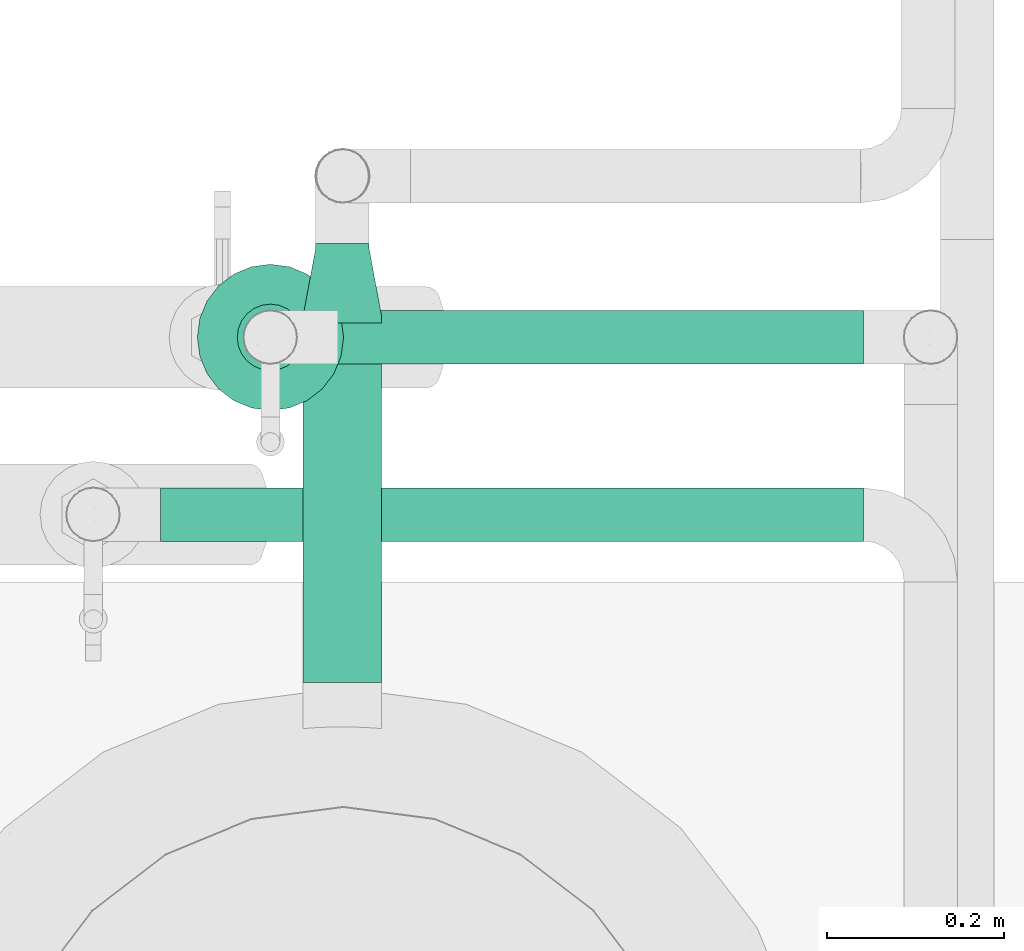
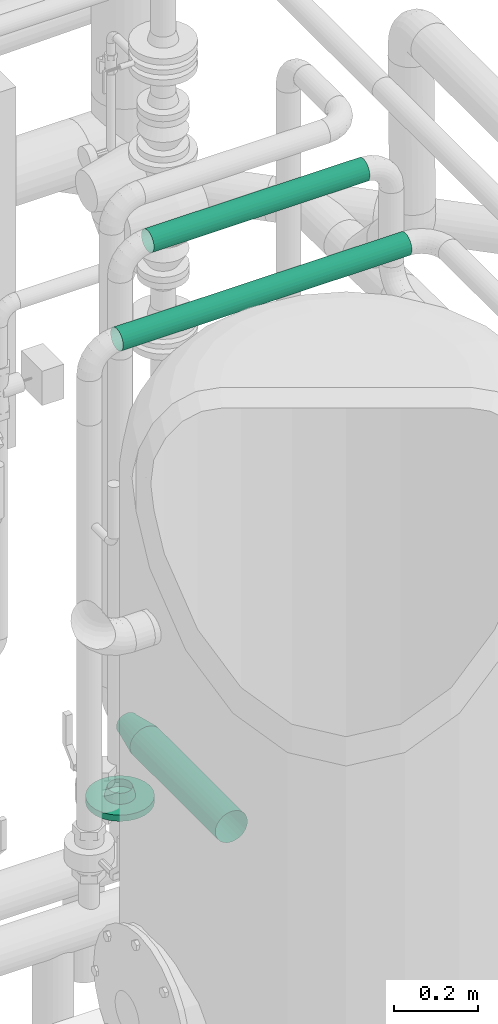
# One storey, part 276 of 374: 3 flow segments, 2 flow fittings.
"""IFC2X3 building model written with IfcOpenShell, lengths in metres."""

from ifc_helpers import new_model, si_unit, direction, origin, place, context, subcontext, project, spatial, open_shell, surface_model, source, transform, mapped, element, save


model = new_model("IFC2X3")

# Units and contexts
model_context = context("Model", 3, precision=1e-05, world=origin(), true_north=direction((-0.4480736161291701, 0.8939966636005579)))
body_context = subcontext(model_context, "Body", "Model", "MODEL_VIEW")
ifc_project = project(units=[si_unit("LENGTHUNIT", "METRE"), si_unit("AREAUNIT", "SQUARE_METRE"), si_unit("VOLUMEUNIT", "CUBIC_METRE"), si_unit("PLANEANGLEUNIT", "RADIAN"), si_unit("THERMODYNAMICTEMPERATUREUNIT", "KELVIN"), si_unit("MASSUNIT", "GRAM", prefix="KILO"), si_unit("TIMEUNIT", "SECOND")], contexts=[model_context])

# Site, building, storey
site_placement = place(None, origin())
site = spatial("IfcSite", under=ifc_project, at=site_placement, Name="Site 1", CompositionType="ELEMENT")
building_placement = place(site_placement, origin())
building = spatial("IfcBuilding", under=site, at=building_placement, Name="Undefined", CompositionType="ELEMENT")
storey_placement = place(building_placement, origin())
storey = spatial("IfcBuildingStorey", under=building, at=storey_placement, Name="Rez de chauss\x8ee", CompositionType="ELEMENT", Elevation=0.0)

# Flow fitting
shared_shape_1 = source(origin(), body_context, "Body", "SurfaceModel", [
    surface_model("IfcFaceBasedSurfaceModel", [(0.0, 0.0, 0.0), (0.007870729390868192, 0.0, -7.105427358e-15), (0.007870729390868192, 0.005490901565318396, -7.105427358e-15), (-8.8817842e-16, 0.005490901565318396, 0.0), (0.015473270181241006, 0.0, -0.00203709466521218), (0.015473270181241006, 0.005490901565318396, -0.00203709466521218), (0.02228952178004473, 0.0, -0.005972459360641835), (0.02228952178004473, 0.005490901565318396, -0.005972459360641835), (0.02785496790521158, 0.0, -0.011537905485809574), (0.02785496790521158, 0.005490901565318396, -0.011537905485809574), (0.03179033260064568, 0.0, -0.01835415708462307), (0.03179033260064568, 0.005490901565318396, -0.01835415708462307), (0.03382742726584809, 0.0, -0.025956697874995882), (0.03382742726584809, 0.005490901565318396, -0.025956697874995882), (0.03382742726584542, 0.0, -0.0338274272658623), (0.03382742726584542, 0.005490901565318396, -0.0338274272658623), (0.03179033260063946, 0.0, -0.04142996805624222), (0.03179033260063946, 0.005490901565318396, -0.04142996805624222), (0.0278549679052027, 0.0, -0.048246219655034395), (0.0278549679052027, 0.005490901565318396, -0.048246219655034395), (0.022289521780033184, 0.0, -0.05381166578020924), (0.022289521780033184, 0.005490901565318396, -0.05381166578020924), (0.015473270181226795, 0.0, -0.057747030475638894), (0.015473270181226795, 0.005490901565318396, -0.057747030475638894), (0.007870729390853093, 0.0, -0.05978412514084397), (0.007870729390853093, 0.005490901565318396, -0.05978412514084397), (0.0, -1.7763568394e-14, -0.05978412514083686), (-1.5099033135e-14, 0.005490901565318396, -0.05978412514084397), (-0.007602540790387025, 0.0, -0.057747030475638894), (-0.007602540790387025, 0.005490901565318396, -0.057747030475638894), (-0.014418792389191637, 0.0, -0.05381166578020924), (-0.014418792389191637, 0.005490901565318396, -0.05381166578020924), (-0.0199842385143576, 0.0, -0.04824621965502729), (-0.0199842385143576, 0.005490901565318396, -0.04824621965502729), (-0.023919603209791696, 0.0, -0.0414299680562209), (-0.023919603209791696, 0.005490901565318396, -0.0414299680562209), (-0.025956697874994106, 0.0, -0.03382742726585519), (-0.025956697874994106, 0.005490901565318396, -0.03382742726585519), (-0.025956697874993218, 0.0, -0.02595669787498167), (-0.025956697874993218, 0.005490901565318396, -0.02595669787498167), (-0.02391960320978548, 0.0, -0.018354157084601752), (-0.02391960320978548, 0.005490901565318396, -0.018354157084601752), (-0.019984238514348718, 0.0, -0.011537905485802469), (-0.019984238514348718, 0.005490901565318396, -0.011537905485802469), (-0.014418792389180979, 0.0, -0.00597245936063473), (-0.014418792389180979, 0.005490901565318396, -0.00597245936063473), (-0.007602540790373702, 0.0, -0.0020370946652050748), (-0.007602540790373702, 0.005490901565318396, -0.0020370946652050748), (-0.040134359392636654, 0.0828503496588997, -0.024090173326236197), (-0.04013435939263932, 0.0828503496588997, -0.035693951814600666), (-0.03713108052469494, 0.0828503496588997, -0.01288178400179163), (-0.031329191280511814, 0.0828503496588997, -0.002832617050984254), (-0.023124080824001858, 0.0828503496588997, 0.005372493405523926), (-0.013074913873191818, 0.0828503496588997, 0.01117438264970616), (-0.0018665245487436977, 0.0828503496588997, 0.014177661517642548), (0.009737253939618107, 0.0828503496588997, 0.014177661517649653), (0.02094564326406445, 0.0828503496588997, 0.01117438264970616), (0.030994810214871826, 0.0828503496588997, 0.005372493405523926), (0.03919992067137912, 0.0828503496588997, -0.0028326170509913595), (0.0450018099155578, 0.0828503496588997, -0.01288178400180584), (0.04800508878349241, 0.0828503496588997, -0.024090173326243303), (0.04800508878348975, 0.0828503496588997, -0.03569395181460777), (0.045001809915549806, 0.0828503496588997, -0.046902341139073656), (0.039199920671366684, 0.0828503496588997, -0.056951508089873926), (0.03099481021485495, 0.0828503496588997, -0.065156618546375), (0.02094564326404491, 0.0828503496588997, -0.07095850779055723), (0.009737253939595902, 0.0828503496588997, -0.07396178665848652), (-0.001866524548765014, 0.0828503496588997, -0.07396178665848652), (-0.013074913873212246, 0.0828503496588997, -0.07095850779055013), (-0.023124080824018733, 0.0828503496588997, -0.0651566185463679), (-0.03132919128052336, 0.0828503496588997, -0.05695150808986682), (-0.03713108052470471, 0.0828503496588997, -0.04690234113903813), (0.009737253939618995, 0.08999999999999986, 0.014177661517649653), (-0.0018665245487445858, 0.08999999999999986, 0.014177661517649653), (0.020945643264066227, 0.08999999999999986, 0.01117438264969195), (0.030994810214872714, 0.08999999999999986, 0.0053724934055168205), (0.03919992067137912, 0.08999999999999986, -0.0028326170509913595), (0.0450018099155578, 0.08999999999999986, -0.01288178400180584), (0.0480050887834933, 0.08999999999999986, -0.024090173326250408), (0.048005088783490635, 0.08999999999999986, -0.03569395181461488), (0.04500180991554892, 0.08999999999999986, -0.04690234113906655), (0.039199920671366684, 0.08999999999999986, -0.056951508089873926), (0.030994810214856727, 0.08999999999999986, -0.0651566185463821), (0.02094564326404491, 0.08999999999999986, -0.07095850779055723), (0.00973725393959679, 0.08999999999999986, -0.07396178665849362), (-0.001866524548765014, 0.08999999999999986, -0.07396178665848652), (-0.013074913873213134, 0.08999999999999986, -0.07095850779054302), (-0.02312408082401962, 0.08999999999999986, -0.06515661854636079), (-0.03132919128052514, 0.08999999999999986, -0.05695150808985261), (-0.03713108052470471, 0.08999999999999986, -0.04690234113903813), (-0.040134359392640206, 0.08999999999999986, -0.03569395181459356), (-0.04013435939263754, 0.08999999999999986, -0.024090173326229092), (-0.037131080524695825, 0.08999999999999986, -0.012881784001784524), (-0.0313291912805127, 0.08999999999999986, -0.0028326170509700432), (-0.023124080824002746, 0.08999999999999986, 0.005372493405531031), (-0.013074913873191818, 0.08999999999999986, 0.01117438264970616)], [open_shell([[[0, 1, 2, 3]], [[1, 4, 5, 2]], [[4, 6, 7, 5]], [[6, 8, 9, 7]], [[8, 10, 11, 9]], [[10, 12, 13, 11]], [[12, 14, 15, 13]], [[14, 16, 17, 15]], [[16, 18, 19, 17]], [[18, 20, 21, 19]], [[20, 22, 23, 21]], [[22, 24, 25, 23]], [[24, 26, 27, 25]], [[26, 28, 29, 27]], [[28, 30, 31, 29]], [[30, 32, 33, 31]], [[32, 34, 35, 33]], [[34, 36, 37, 35]], [[36, 38, 39, 37]], [[38, 40, 41, 39]], [[40, 42, 43, 41]], [[42, 44, 45, 43]], [[44, 46, 47, 45]], [[46, 0, 3, 47]], [[37, 39, 48, 49]], [[39, 41, 50, 48]], [[41, 43, 51, 50]], [[43, 45, 52, 51]], [[45, 47, 53, 52]], [[47, 3, 54, 53]], [[3, 2, 55, 54]], [[2, 5, 56, 55]], [[5, 7, 57, 56]], [[7, 9, 58, 57]], [[9, 11, 59, 58]], [[11, 13, 60, 59]], [[13, 15, 61, 60]], [[15, 17, 62, 61]], [[17, 19, 63, 62]], [[19, 21, 64, 63]], [[21, 23, 65, 64]], [[23, 25, 66, 65]], [[25, 27, 67, 66]], [[27, 29, 68, 67]], [[29, 31, 69, 68]], [[31, 33, 70, 69]], [[33, 35, 71, 70]], [[35, 37, 49, 71]], [[54, 55, 72, 73]], [[55, 56, 74, 72]], [[56, 57, 75, 74]], [[57, 58, 76, 75]], [[58, 59, 77, 76]], [[59, 60, 78, 77]], [[60, 61, 79, 78]], [[61, 62, 80, 79]], [[62, 63, 81, 80]], [[63, 64, 82, 81]], [[64, 65, 83, 82]], [[65, 66, 84, 83]], [[66, 67, 85, 84]], [[67, 68, 86, 85]], [[68, 69, 87, 86]], [[69, 70, 88, 87]], [[70, 71, 89, 88]], [[71, 49, 90, 89]], [[49, 48, 91, 90]], [[48, 50, 92, 91]], [[50, 51, 93, 92]], [[51, 52, 94, 93]], [[52, 53, 95, 94]], [[53, 54, 73, 95]]])]),
])
flow_fitting_1_placement = place(storey_placement, origin())
element("IfcFlowFitting", 1, at=flow_fitting_1_placement, inside=storey, Name="Réduction", ObjectType="Réduction", context=body_context, shape_type="MappedRepresentation", body=[
    mapped(shared_shape_1, transform((54.3085815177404, 11.024062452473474, 0.5921084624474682), x_axis=(0.12993335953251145, 0.0, -0.9915227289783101), y_axis=(0.0, -1.0, 0.0), z_axis=(-0.9915227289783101, 0.0, -0.12993335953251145))),
])

# Flow segments
shared_shape_2 = source(origin(), body_context, "Body", "SurfaceModel", [
    surface_model("IfcFaceBasedSurfaceModel", [(0.0, 0.011603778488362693, 2.22044605e-16), (0.0, 0.0, 0.0), (0.4056826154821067, -8.8817842e-16, 0.0), (0.4056826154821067, 0.011603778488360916, 0.0), (0.0, -0.01120838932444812, -0.003003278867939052), (0.4056826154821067, -0.011208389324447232, -0.003003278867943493), (0.0, -0.021257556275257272, -0.008805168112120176), (0.4056826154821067, -0.021257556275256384, -0.008805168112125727), (0.0, -0.029462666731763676, -0.017010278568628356), (0.4056826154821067, -0.029462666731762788, -0.017010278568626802), (0.0, -0.035264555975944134, -0.02705944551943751), (0.4056826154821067, -0.035264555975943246, -0.027059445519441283), (0.0, -0.03826783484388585, -0.038267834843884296), (0.4056826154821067, -0.0382678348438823, -0.038267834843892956), (0.0, -0.038267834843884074, -0.04987161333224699), (0.4056826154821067, -0.03826783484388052, -0.049871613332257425), (0.0, -0.03526455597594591, -0.06108000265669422), (0.4056826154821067, -0.03526455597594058, -0.06108000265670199), (0.0, -0.029462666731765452, -0.07112916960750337), (0.4056826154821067, -0.02946266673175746, -0.07112916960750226), (0.0, -0.021257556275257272, -0.07933428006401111), (0.4056826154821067, -0.02125755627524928, -0.07933428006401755), (0.0, -0.011208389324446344, -0.08513616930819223), (0.4056826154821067, -0.011208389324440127, -0.08513616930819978), (0.0, 0.0, -0.08813944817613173), (0.4056826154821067, 7.105427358e-15, -0.08813944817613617), (0.0, 0.011603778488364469, -0.08813944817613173), (0.4056826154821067, 0.011603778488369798, -0.08813944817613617), (0.0, 0.022812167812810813, -0.08513616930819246), (0.4056826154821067, 0.022812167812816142, -0.08513616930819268), (0.0, 0.03286133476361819, -0.07933428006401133), (0.4056826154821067, 0.032861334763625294, -0.07933428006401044), (0.0, 0.04106644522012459, -0.07112916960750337), (0.4056826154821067, 0.041066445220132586, -0.07112916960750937), (0.0, 0.0468683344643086, -0.06108000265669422), (0.4056826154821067, 0.046868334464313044, -0.06108000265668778), (0.0, 0.04987161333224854, -0.04987161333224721), (0.4056826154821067, 0.04987161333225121, -0.049871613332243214), (0.0, 0.04987161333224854, -0.03826783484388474), (0.4056826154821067, 0.04987161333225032, -0.038267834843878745), (0.0, 0.04686833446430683, -0.02705944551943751), (0.4056826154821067, 0.04686833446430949, -0.027059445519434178), (0.0, 0.04106644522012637, -0.017010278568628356), (0.4056826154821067, 0.04106644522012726, -0.017010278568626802), (0.0, 0.032861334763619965, -0.00880516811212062), (0.4056826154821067, 0.03286133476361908, -0.008805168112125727), (0.0, 0.022812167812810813, -0.003003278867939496), (0.4056826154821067, 0.022812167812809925, -0.0030032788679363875)], [open_shell([[[0, 1, 2, 3]], [[1, 4, 5, 2]], [[4, 6, 7, 5]], [[6, 8, 9, 7]], [[8, 10, 11, 9]], [[10, 12, 13, 11]], [[12, 14, 15, 13]], [[14, 16, 17, 15]], [[16, 18, 19, 17]], [[18, 20, 21, 19]], [[20, 22, 23, 21]], [[22, 24, 25, 23]], [[24, 26, 27, 25]], [[26, 28, 29, 27]], [[28, 30, 31, 29]], [[30, 32, 33, 31]], [[32, 34, 35, 33]], [[34, 36, 37, 35]], [[36, 38, 39, 37]], [[38, 40, 41, 39]], [[40, 42, 43, 41]], [[42, 44, 45, 43]], [[44, 46, 47, 45]], [[46, 0, 3, 47]]])]),
])
flow_segment_1_placement = place(storey_placement, origin())
element("IfcFlowSegment", 2, at=flow_segment_1_placement, inside=storey, Name="Tube acier d'après DIN 2448", ObjectType="Tube acier d'après DIN 2448", context=body_context, shape_type="MappedRepresentation", body=[
    mapped(shared_shape_2, transform((54.29578923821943, 10.934062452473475, 0.5806116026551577), x_axis=(0.0, -1.0, 0.0), y_axis=(-0.12993335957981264, 0.0, 0.9915227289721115), z_axis=(-0.9915227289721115, 0.0, -0.12993335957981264))),
])
shared_shape_3 = source(origin(), body_context, "Body", "SurfaceModel", [
    surface_model("IfcFaceBasedSurfaceModel", [(0.0, 0.007870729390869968, 7.105427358e-15), (0.0, 0.0, 0.0), (0.7932685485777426, 0.0, 0.0), (0.7932685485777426, 0.007870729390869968, 0.0), (0.0, -0.00760254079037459, -0.0020370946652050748), (0.7932685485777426, -0.007602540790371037, -0.0020370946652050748), (0.0, -0.01441879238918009, -0.00597245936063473), (0.7932685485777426, -0.014418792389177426, -0.005972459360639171), (0.0, -0.019984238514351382, -0.011537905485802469), (0.7932685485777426, -0.01998423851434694, -0.01153790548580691), (0.0, -0.023919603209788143, -0.018354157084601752), (0.7932685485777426, -0.02391960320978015, -0.01835415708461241), (0.0, -0.025956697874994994, -0.025956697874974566), (0.7932685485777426, -0.025956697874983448, -0.025956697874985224), (0.0, -0.025956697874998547, -0.03382742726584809), (0.7932685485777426, -0.025956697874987, -0.033827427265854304), (0.0, -0.02391960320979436, -0.041429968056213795), (0.7932685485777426, -0.023919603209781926, -0.04142996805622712), (0.0, -0.019984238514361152, -0.04824621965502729), (0.7932685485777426, -0.01998423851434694, -0.04824621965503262), (0.0, -0.01441879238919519, -0.05381166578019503), (0.7932685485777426, -0.014418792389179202, -0.0538116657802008), (0.0, -0.007602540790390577, -0.05774703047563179), (0.7932685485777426, -0.00760254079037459, -0.05774703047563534), (0.0, -1.7763568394e-14, -0.05978412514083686), (0.7932685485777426, -1.776356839e-15, -0.059784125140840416), (0.0, 0.007870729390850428, -0.05978412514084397), (0.7932685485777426, 0.007870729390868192, -0.05978412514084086), (0.0, 0.015473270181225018, -0.057747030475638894), (0.7932685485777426, 0.015473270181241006, -0.05774703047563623), (0.0, 0.022289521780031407, -0.05381166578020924), (0.7932685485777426, 0.022289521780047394, -0.05381166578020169), (0.0, 0.027854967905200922, -0.048246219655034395), (0.7932685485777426, 0.02785496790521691, -0.048246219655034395), (0.0, 0.031790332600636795, -0.04142996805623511), (0.7932685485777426, 0.03179033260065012, -0.04142996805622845), (0.0, 0.033827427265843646, -0.0338274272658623), (0.7932685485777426, 0.03382742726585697, -0.033827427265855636), (0.0, 0.0338274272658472, -0.025956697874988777), (0.7932685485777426, 0.03382742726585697, -0.025956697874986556), (0.0, 0.0317903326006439, -0.01835415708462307), (0.7932685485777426, 0.031790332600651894, -0.018354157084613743), (0.0, 0.02785496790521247, -0.01153790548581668), (0.7932685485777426, 0.02785496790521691, -0.011537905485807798), (0.0, 0.022289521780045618, -0.005972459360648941), (0.7932685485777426, 0.02228952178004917, -0.005972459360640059), (0.0, 0.015473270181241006, -0.0020370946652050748), (0.7932685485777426, 0.015473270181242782, -0.0020370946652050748)], [open_shell([[[0, 1, 2, 3]], [[1, 4, 5, 2]], [[4, 6, 7, 5]], [[6, 8, 9, 7]], [[8, 10, 11, 9]], [[10, 12, 13, 11]], [[12, 14, 15, 13]], [[14, 16, 17, 15]], [[16, 18, 19, 17]], [[18, 20, 21, 19]], [[20, 22, 23, 21]], [[22, 24, 25, 23]], [[24, 26, 27, 25]], [[26, 28, 29, 27]], [[28, 30, 31, 29]], [[30, 32, 33, 31]], [[32, 34, 35, 33]], [[34, 36, 37, 35]], [[36, 38, 39, 37]], [[38, 40, 41, 39]], [[40, 42, 43, 41]], [[42, 44, 45, 43]], [[44, 46, 47, 45]], [[46, 0, 3, 47]]])]),
])
flow_segment_2_placement = place(storey_placement, origin())
element("IfcFlowSegment", 3, at=flow_segment_2_placement, inside=storey, Name="Tube acier d'après DIN 2448", ObjectType="Tube acier d'après DIN 2448", context=body_context, shape_type="MappedRepresentation", body=[
    mapped(shared_shape_3, transform((54.926830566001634, 10.725840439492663, 1.9943812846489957), x_axis=(-1.0, 0.0, 0.0), y_axis=(7.266545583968e-12, -0.9914448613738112, 0.13052619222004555), z_axis=(0.0, 0.13052619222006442, 0.9914448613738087))),
])
shared_shape_4 = source(origin(), body_context, "Body", "SurfaceModel", [
    surface_model("IfcFaceBasedSurfaceModel", [(0.0, 0.007870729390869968, 7.105427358e-15), (0.0, 0.0, 0.0), (0.5932685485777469, -4.4408921e-16, 0.0), (0.5932685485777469, 0.007870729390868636, -1.776356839e-15), (0.0, -0.00760254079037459, -0.0020370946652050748), (0.5932685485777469, -0.007602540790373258, -0.0020370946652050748), (0.0, -0.01441879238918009, -0.00597245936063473), (0.5932685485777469, -0.01441879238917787, -0.005972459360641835), (0.0, -0.019984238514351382, -0.011537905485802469), (0.5932685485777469, -0.019984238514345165, -0.01153790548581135), (0.0, -0.023919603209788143, -0.018354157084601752), (0.5932685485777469, -0.023919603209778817, -0.01835415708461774), (0.0, -0.025956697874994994, -0.025956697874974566), (0.5932685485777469, -0.025956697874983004, -0.025956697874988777), (0.0, -0.025956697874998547, -0.03382742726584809), (0.5932685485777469, -0.025956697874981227, -0.033827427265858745), (0.0, -0.02391960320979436, -0.041429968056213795), (0.5932685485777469, -0.023919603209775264, -0.041429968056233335), (0.0, -0.019984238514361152, -0.04824621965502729), (0.5932685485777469, -0.019984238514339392, -0.04824621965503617), (0.0, -0.01441879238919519, -0.05381166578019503), (0.5932685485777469, -0.014418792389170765, -0.05381166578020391), (0.0, -0.007602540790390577, -0.05774703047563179), (0.5932685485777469, -0.00760254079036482, -0.05774703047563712), (0.0, -1.7763568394e-14, -0.05978412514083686), (0.5932685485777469, 7.993605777e-15, -0.05978412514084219), (0.0, 0.007870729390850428, -0.05978412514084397), (0.5932685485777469, 0.007870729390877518, -0.059784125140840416), (0.0, 0.015473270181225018, -0.057747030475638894), (0.5932685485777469, 0.015473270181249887, -0.057747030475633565), (0.0, 0.022289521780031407, -0.05381166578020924), (0.5932685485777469, 0.022289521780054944, -0.05381166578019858), (0.0, 0.027854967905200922, -0.048246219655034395), (0.5932685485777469, 0.027854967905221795, -0.04824621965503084), (0.0, 0.031790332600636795, -0.04142996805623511), (0.5932685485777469, 0.031790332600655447, -0.04142996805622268), (0.0, 0.033827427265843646, -0.0338274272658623), (0.5932685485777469, 0.03382742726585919, -0.03382742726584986), (0.0, 0.0338274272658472, -0.025956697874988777), (0.5932685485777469, 0.0338274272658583, -0.02595669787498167), (0.0, 0.0317903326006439, -0.01835415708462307), (0.5932685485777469, 0.03179033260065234, -0.018354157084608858), (0.0, 0.02785496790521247, -0.01153790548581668), (0.5932685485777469, 0.027854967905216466, -0.011537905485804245), (0.0, 0.022289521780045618, -0.005972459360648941), (0.5932685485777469, 0.022289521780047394, -0.005972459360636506), (0.0, 0.015473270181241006, -0.0020370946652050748), (0.5932685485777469, 0.015473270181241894, -0.0020370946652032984)], [open_shell([[[0, 1, 2, 3]], [[1, 4, 5, 2]], [[4, 6, 7, 5]], [[6, 8, 9, 7]], [[8, 10, 11, 9]], [[10, 12, 13, 11]], [[12, 14, 15, 13]], [[14, 16, 17, 15]], [[16, 18, 19, 17]], [[18, 20, 21, 19]], [[20, 22, 23, 21]], [[22, 24, 25, 23]], [[24, 26, 27, 25]], [[26, 28, 29, 27]], [[28, 30, 31, 29]], [[30, 32, 33, 31]], [[32, 34, 35, 33]], [[34, 36, 37, 35]], [[36, 38, 39, 37]], [[38, 40, 41, 39]], [[40, 42, 43, 41]], [[42, 44, 45, 43]], [[44, 46, 47, 45]], [[46, 0, 3, 47]]])]),
])
flow_segment_3_placement = place(storey_placement, origin())
element("IfcFlowSegment", 4, at=flow_segment_3_placement, inside=storey, Name="Tube acier d'après DIN 2448", ObjectType="Tube acier d'après DIN 2448", context=body_context, shape_type="MappedRepresentation", body=[
    mapped(shared_shape_4, transform((54.926830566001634, 10.888914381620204, 2.067445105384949), x_axis=(-1.0, 0.0, 0.0), y_axis=(9.56658874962e-13, -0.13052619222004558, -0.9914448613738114), z_axis=(7.266545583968e-12, -0.9914448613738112, 0.13052619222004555))),
])

# Flow fitting
shared_shape_5 = source(origin(), body_context, "Body", "SurfaceModel", [
    surface_model("IfcFaceBasedSurfaceModel", [(-0.00026984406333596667, 0.007866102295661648, 0.0), (0.0, 0.0, 0.0), (0.027982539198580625, 0.0, 0.0), (0.02764691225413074, 0.009783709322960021, 0.0), (-0.0002698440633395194, -0.007616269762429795, -0.0019667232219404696), (0.027646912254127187, -0.009472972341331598, -0.0024461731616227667), (-0.0010609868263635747, -0.014463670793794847, -0.005766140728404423), (0.0266629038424, -0.017989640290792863, -0.007171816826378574), (-0.002319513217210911, -0.02007556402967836, -0.011139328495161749), (0.025097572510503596, -0.024969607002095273, -0.013854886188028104), (-0.003959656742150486, -0.02406950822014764, -0.01772011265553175), (0.02305759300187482, -0.02993719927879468, -0.022039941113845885), (-0.005869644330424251, -0.02617332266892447, -0.025060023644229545), (0.020681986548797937, -0.03255388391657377, -0.03116918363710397), (-0.007919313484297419, -0.02624363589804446, -0.03265885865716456), (0.01813264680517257, -0.03264133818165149, -0.040620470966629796), (-0.009968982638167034, -0.02427565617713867, -0.03999876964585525), (0.015583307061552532, -0.030193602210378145, -0.049749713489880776), (-0.011878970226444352, -0.020403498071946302, -0.046579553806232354), (0.013207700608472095, -0.02537748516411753, -0.05793476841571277), (-0.01351911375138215, -0.01489104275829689, -0.05195274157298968), (0.01116772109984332, -0.018521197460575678, -0.0646178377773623), (-0.014777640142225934, -0.008113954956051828, -0.05575215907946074), (0.009602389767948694, -0.010091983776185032, -0.069343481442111), (-0.015568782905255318, -0.0005340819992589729, -0.05771888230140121), (0.008618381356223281, -0.0006642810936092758, -0.07178965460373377), (-0.015838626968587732, 0.007332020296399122, -0.057718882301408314), (0.00828275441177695, 0.009119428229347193, -0.07178965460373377), (-0.015568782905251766, 0.014948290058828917, -0.055752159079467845), (0.008618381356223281, 0.018592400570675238, -0.06934348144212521), (-0.014777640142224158, 0.02179569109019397, -0.05195274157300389), (0.009602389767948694, 0.027109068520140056, -0.06461783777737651), (-0.013519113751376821, 0.027407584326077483, -0.04657955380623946), (0.011167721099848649, 0.03408903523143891, -0.057934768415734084), (-0.011878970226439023, 0.03140152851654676, -0.039998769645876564), (0.0132077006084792, 0.03905662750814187, -0.0497497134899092), (-0.009968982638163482, 0.03350534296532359, -0.03265885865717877), (0.015583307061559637, 0.04167331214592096, -0.0406204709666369), (-0.00791931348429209, 0.03357565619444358, -0.025060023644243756), (0.01813264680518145, 0.041760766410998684, -0.031169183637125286), (-0.005869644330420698, 0.031607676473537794, -0.01772011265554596), (0.020681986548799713, 0.039313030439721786, -0.02203994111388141), (-0.003959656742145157, 0.027735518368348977, -0.01113932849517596), (0.023057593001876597, 0.03449691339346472, -0.013854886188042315), (-0.002319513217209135, 0.022223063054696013, -0.005766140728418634), (0.02509757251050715, 0.027640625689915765, -0.007171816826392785), (-0.0010609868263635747, 0.01544597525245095, -0.001966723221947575), (0.026662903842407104, 0.019211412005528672, -0.0024461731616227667), (0.012524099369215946, 0.08620962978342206, -0.04629124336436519), (0.018132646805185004, 0.08640202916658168, -0.025498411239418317), (0.0355006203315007, 0.08699783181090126, -0.030188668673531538), (0.02989207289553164, 0.08680543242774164, -0.05098150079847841), (0.023741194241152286, 0.0810170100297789, -0.005414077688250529), (0.04110916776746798, 0.08161281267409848, -0.01010433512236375), (0.028967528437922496, 0.07042155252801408, 0.01259304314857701), (0.04633550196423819, 0.07101735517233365, 0.00790278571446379), (0.033455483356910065, 0.055337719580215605, 0.027295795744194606), (0.05082345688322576, 0.05593352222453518, 0.022605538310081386), (0.036899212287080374, 0.03679344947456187, 0.037692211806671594), (0.05426718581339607, 0.037389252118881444, 0.03300195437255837), (0.039064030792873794, 0.016052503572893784, 0.043073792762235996), (0.05643200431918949, 0.01664830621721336, 0.038383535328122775), (0.039802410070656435, -0.005471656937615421, 0.043073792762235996), (0.05717038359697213, -0.004875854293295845, 0.038383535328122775), (0.03906403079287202, -0.02631219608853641, 0.03769221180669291), (0.05643200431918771, -0.025716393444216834, 0.03300195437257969), (0.03689921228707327, -0.045048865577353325, 0.027295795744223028), (0.05426718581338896, -0.04445306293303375, 0.022605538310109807), (0.03345548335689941, -0.06040479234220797, 0.012593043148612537), (0.0508234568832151, -0.059808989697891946, 0.007902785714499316), (0.028967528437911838, -0.07133349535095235, -0.005414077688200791), (0.04633550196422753, -0.07073769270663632, -0.010104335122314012), (0.023741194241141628, -0.07709020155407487, -0.025498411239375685), (0.04110916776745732, -0.07649439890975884, -0.030188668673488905), (0.018132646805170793, -0.07728260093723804, -0.04629124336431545), (0.03550062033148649, -0.07668679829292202, -0.05098150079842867), (0.012524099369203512, -0.07189758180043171, -0.06637557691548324), (0.029892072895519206, -0.07130177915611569, -0.07106583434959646), (0.007297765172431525, -0.06130212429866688, -0.08438269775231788), (0.02466573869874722, -0.06070632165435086, -0.0890729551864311), (0.0028098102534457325, -0.046218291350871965, -0.09908545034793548), (0.020177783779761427, -0.04562248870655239, -0.1037757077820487), (-0.0006339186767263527, -0.027674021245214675, -0.10948186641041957), (0.01673405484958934, -0.0270782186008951, -0.11417212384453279), (-0.002798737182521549, -0.0069330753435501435, -0.11486344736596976), (0.014569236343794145, -0.006337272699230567, -0.11955370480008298), (-0.003537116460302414, 0.014591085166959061, -0.11486344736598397), (0.01383085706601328, 0.015186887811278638, -0.1195537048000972), (-0.00279873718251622, 0.03543162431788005, -0.10948186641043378), (0.014569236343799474, 0.03602742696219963, -0.114172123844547), (-0.0006339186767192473, 0.054168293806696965, -0.0990854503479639), (0.016734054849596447, 0.05476409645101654, -0.10377570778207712), (0.0028098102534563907, 0.06952422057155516, -0.0843826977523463), (0.020177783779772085, 0.07012002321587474, -0.08907295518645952), (0.00729776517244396, 0.08045292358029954, -0.06637557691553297), (0.024665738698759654, 0.08104872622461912, -0.0710658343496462), (0.0181326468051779, 0.0045597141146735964, -0.03589482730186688)], [open_shell([[[0, 1, 2, 3]], [[1, 4, 5, 2]], [[4, 6, 7, 5]], [[6, 8, 9, 7]], [[8, 10, 11, 9]], [[10, 12, 13, 11]], [[12, 14, 15, 13]], [[14, 16, 17, 15]], [[16, 18, 19, 17]], [[18, 20, 21, 19]], [[20, 22, 23, 21]], [[22, 24, 25, 23]], [[24, 26, 27, 25]], [[26, 28, 29, 27]], [[28, 30, 31, 29]], [[30, 32, 33, 31]], [[32, 34, 35, 33]], [[34, 36, 37, 35]], [[36, 38, 39, 37]], [[38, 40, 41, 39]], [[40, 42, 43, 41]], [[42, 44, 45, 43]], [[44, 46, 47, 45]], [[46, 0, 3, 47]], [[48, 49, 50, 51]], [[49, 52, 53, 50]], [[52, 54, 55, 53]], [[54, 56, 57, 55]], [[56, 58, 59, 57]], [[58, 60, 61, 59]], [[60, 62, 63, 61]], [[62, 64, 65, 63]], [[64, 66, 67, 65]], [[66, 68, 69, 67]], [[68, 70, 71, 69]], [[70, 72, 73, 71]], [[72, 74, 75, 73]], [[74, 76, 77, 75]], [[76, 78, 79, 77]], [[78, 80, 81, 79]], [[80, 82, 83, 81]], [[82, 84, 85, 83]], [[84, 86, 87, 85]], [[86, 88, 89, 87]], [[88, 90, 91, 89]], [[90, 92, 93, 91]], [[92, 94, 95, 93]], [[94, 48, 51, 95]], [[96, 49, 48]], [[96, 52, 49]], [[96, 54, 52]], [[96, 56, 54]], [[96, 58, 56]], [[96, 60, 58]], [[96, 62, 60]], [[96, 64, 62]], [[96, 66, 64]], [[96, 68, 66]], [[96, 70, 68]], [[96, 72, 70]], [[96, 74, 72]], [[96, 76, 74]], [[96, 78, 76]], [[96, 80, 78]], [[96, 82, 80]], [[96, 84, 82]], [[96, 86, 84]], [[96, 88, 86]], [[96, 90, 88]], [[96, 92, 90]], [[96, 94, 92]], [[96, 48, 94]]])]),
])
flow_fitting_2_placement = place(storey_placement, origin())
element("IfcFlowFitting", 5, at=flow_fitting_2_placement, inside=storey, Name="Bride", ObjectType="Bride", context=body_context, shape_type="MappedRepresentation", body=[
    mapped(shared_shape_5, transform((54.228439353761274, 10.925840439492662, 0.5021499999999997), x_axis=(-0.25371374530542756, 0.06798239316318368, -0.964887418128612), y_axis=(-0.13930653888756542, -0.9896959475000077, -0.033100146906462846), z_axis=(-0.957195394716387, 0.12601716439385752, 0.2605698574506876))),
])

save(model, "model.ifc")
